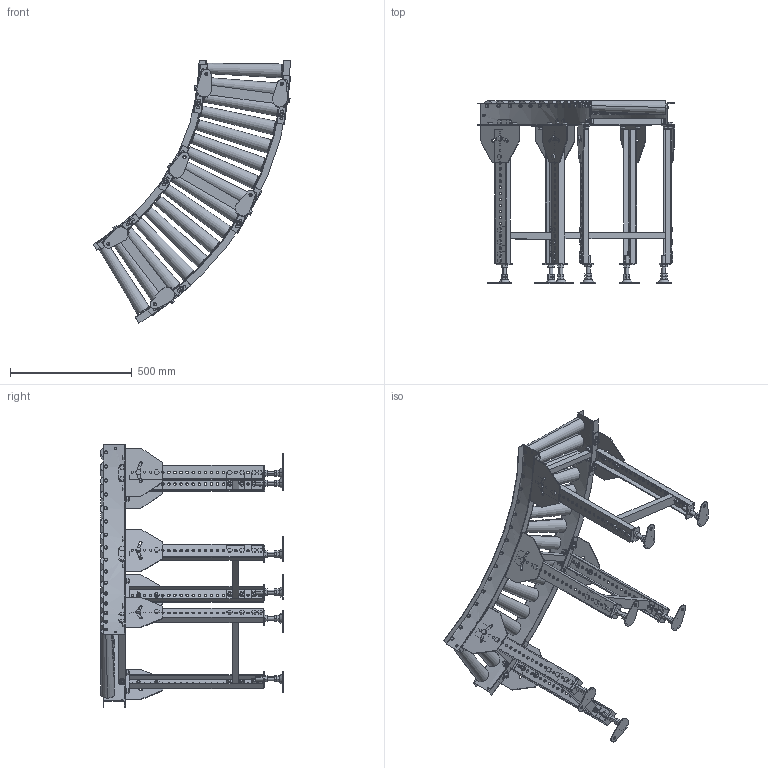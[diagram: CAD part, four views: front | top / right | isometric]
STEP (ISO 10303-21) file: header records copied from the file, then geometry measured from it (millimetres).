
FILE_DESCRIPTION (( 'STEP AP214' ), '1' );
FILE_NAME ('MRT-C9-300-75-60.STEP', '2022-09-28T01:52:09', ( '' ), ( '' ), 'SwSTEP 2.0', 'SolidWorks 2017', '' );
FILE_SCHEMA (( 'AUTOMOTIVE_DESIGN' ));
Length unit declared in the file: millimetre
Products named in the file (1): MRT-C9-300-75-60
Bounding box: 810.9 x 750 x 1078.2 mm (x, y, z)
Volume: 14690252.4 mm3; surface area: 2999711.9 mm2
Topology: 28 solids, 58 shells, 3218 faces, 7716 edges, 4856 vertices
Faces by surface type: plane 2298, cylinder 876, cone 44
Entity records: 135444 total; most frequent: CARTESIAN_POINT 22766, DIRECTION 16450, ORIENTED_EDGE 15432, EDGE_CURVE 7716, AXIS2_PLACEMENT_3D 5737, LINE 4976, VECTOR 4976, VERTEX_POINT 4856
